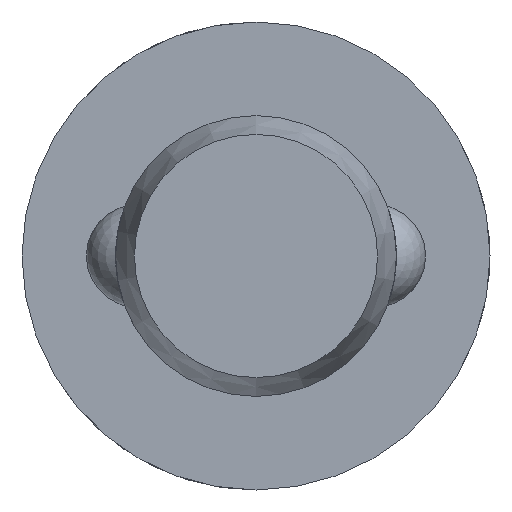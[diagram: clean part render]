
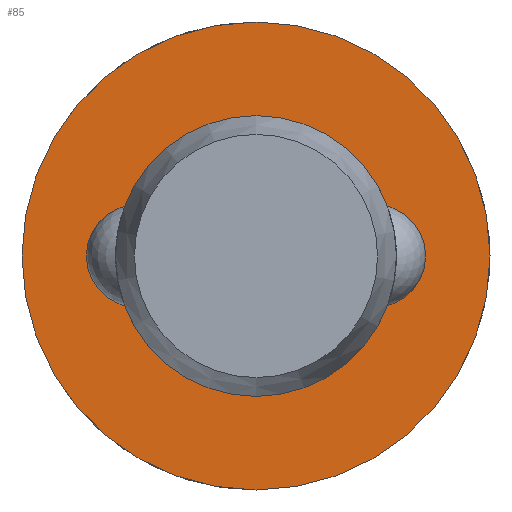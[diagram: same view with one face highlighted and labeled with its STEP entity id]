
A CAD part, left-side view. The second image highlights one B-rep face of the part: STEP entity #85.
In plain terms, the highlighted planar face has unit normal (-1, 0, 0).
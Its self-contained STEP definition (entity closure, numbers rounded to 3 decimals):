
#85 = ADVANCED_FACE( '', ( #130, #131 ), #132, .F. );
#130 = FACE_OUTER_BOUND( '', #201, .T. );
#131 = FACE_BOUND( '', #202, .T. );
#132 = PLANE( '', #203 );
#201 = EDGE_LOOP( '', ( #317 ) );
#202 = EDGE_LOOP( '', ( #318 ) );
#203 = AXIS2_PLACEMENT_3D( '', #319, #320, #321 );
#317 = ORIENTED_EDGE( '', *, *, #461, .F. );
#318 = ORIENTED_EDGE( '', *, *, #458, .T. );
#319 = CARTESIAN_POINT( '', ( 100.6, 6., 0. ) );
#320 = DIRECTION( '', ( 1., 0., 0. ) );
#321 = DIRECTION( '', ( 0., 0., -1. ) );
#458 = EDGE_CURVE( '', #532, #532, #533, .T. );
#461 = EDGE_CURVE( '', #538, #538, #539, .T. );
#532 = VERTEX_POINT( '', #742 );
#533 = CIRCLE( '', #743, 6. );
#538 = VERTEX_POINT( '', #858 );
#539 = CIRCLE( '', #859, 10. );
#742 = CARTESIAN_POINT( '', ( 100.6, 0., -6. ) );
#743 = AXIS2_PLACEMENT_3D( '', #936, #937, #938 );
#858 = CARTESIAN_POINT( '', ( 100.6, 0., -10. ) );
#859 = AXIS2_PLACEMENT_3D( '', #939, #940, #941 );
#936 = CARTESIAN_POINT( '', ( 100.6, 0., 0. ) );
#937 = DIRECTION( '', ( 1., 0., 0. ) );
#938 = DIRECTION( '', ( 0., 0., -1. ) );
#939 = CARTESIAN_POINT( '', ( 100.6, 0., 0. ) );
#940 = DIRECTION( '', ( 1., 0., 0. ) );
#941 = DIRECTION( '', ( 0., 0., -1. ) );
